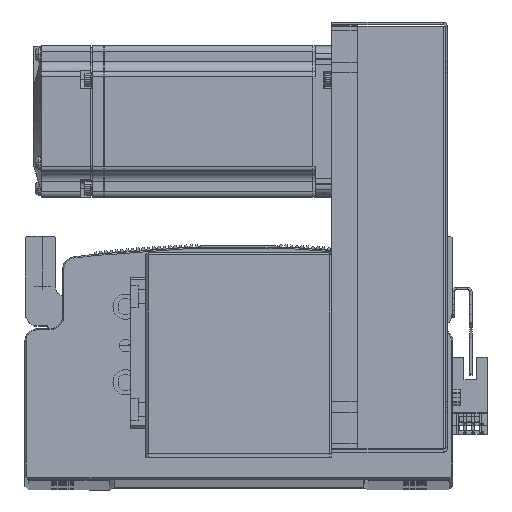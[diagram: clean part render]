
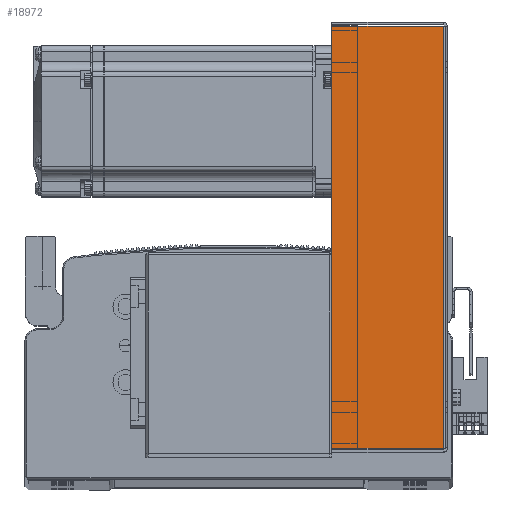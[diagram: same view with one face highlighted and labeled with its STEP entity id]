
A CAD part, top view. The second image highlights one B-rep face of the part: STEP entity #18972.
In plain terms, the highlighted planar face has unit normal (0, 0, 1).
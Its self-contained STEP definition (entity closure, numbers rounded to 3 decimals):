
#15413 = DIRECTION ( 'NONE',  ( -1., 0., 0. ) ) ;
#15418 = CARTESIAN_POINT ( 'NONE',  ( 0., 0.737, 40.5 ) ) ;
#15495 = DIRECTION ( 'NONE',  ( -1., 0., 0. ) ) ;
#15503 = CARTESIAN_POINT ( 'NONE',  ( -84.5, 45., 40.5 ) ) ;
#15573 = CARTESIAN_POINT ( 'NONE',  ( 83.793, 0., 40.5 ) ) ;
#15575 = CARTESIAN_POINT ( 'NONE',  ( -83.793, 0., 40.5 ) ) ;
#15585 = DIRECTION ( 'NONE',  ( 0., 1., 0. ) ) ;
#15588 = DIRECTION ( 'NONE',  ( 0., 1., 0. ) ) ;
#18034 = VECTOR ( 'NONE', #15413, 1000. ) ;
#18079 = LINE ( 'NONE', #15418, #18034 ) ;
#18115 = VECTOR ( 'NONE', #15495, 1000. ) ;
#18161 = LINE ( 'NONE', #15503, #18115 ) ;
#18167 = LINE ( 'NONE', #15575, #18171 ) ;
#18171 = VECTOR ( 'NONE', #15585, 1000. ) ;
#18175 = VECTOR ( 'NONE', #15588, 1000. ) ;
#18215 = LINE ( 'NONE', #15573, #18175 ) ;
#18972 = ADVANCED_FACE ( 'NONE', ( #46212 ), #82866, .F. ) ;
#27806 = VERTEX_POINT ( 'NONE', #80303 ) ;
#27824 = VERTEX_POINT ( 'NONE', #80420 ) ;
#27826 = VERTEX_POINT ( 'NONE', #80383 ) ;
#27828 = VERTEX_POINT ( 'NONE', #80376 ) ;
#46212 = FACE_OUTER_BOUND ( 'NONE', #87275, .T. ) ;
#48428 = AXIS2_PLACEMENT_3D ( 'NONE', #82844, #82870, #82881 ) ;
#49036 = ORIENTED_EDGE ( 'NONE', *, *, #88866, .T. ) ;
#49069 = ORIENTED_EDGE ( 'NONE', *, *, #88852, .F. ) ;
#49075 = ORIENTED_EDGE ( 'NONE', *, *, #88723, .F. ) ;
#49102 = ORIENTED_EDGE ( 'NONE', *, *, #88782, .T. ) ;
#80303 = CARTESIAN_POINT ( 'NONE',  ( -83.793, 45., 40.5 ) ) ;
#80376 = CARTESIAN_POINT ( 'NONE',  ( 83.793, 0.737, 40.5 ) ) ;
#80383 = CARTESIAN_POINT ( 'NONE',  ( 83.793, 45., 40.5 ) ) ;
#80420 = CARTESIAN_POINT ( 'NONE',  ( -83.793, 0.737, 40.5 ) ) ;
#82844 = CARTESIAN_POINT ( 'NONE',  ( 0., 0., 40.5 ) ) ;
#82866 = PLANE ( 'NONE',  #48428 ) ;
#82870 = DIRECTION ( 'NONE',  ( 0., 0., -1. ) ) ;
#82881 = DIRECTION ( 'NONE',  ( -1., 0., 0. ) ) ;
#87275 = EDGE_LOOP ( 'NONE', ( #49075, #49036, #49102, #49069 ) ) ;
#88723 = EDGE_CURVE ( 'NONE', #27828, #27824, #18079, .T. ) ;
#88782 = EDGE_CURVE ( 'NONE', #27826, #27806, #18161, .T. ) ;
#88852 = EDGE_CURVE ( 'NONE', #27824, #27806, #18167, .T. ) ;
#88866 = EDGE_CURVE ( 'NONE', #27828, #27826, #18215, .T. ) ;
